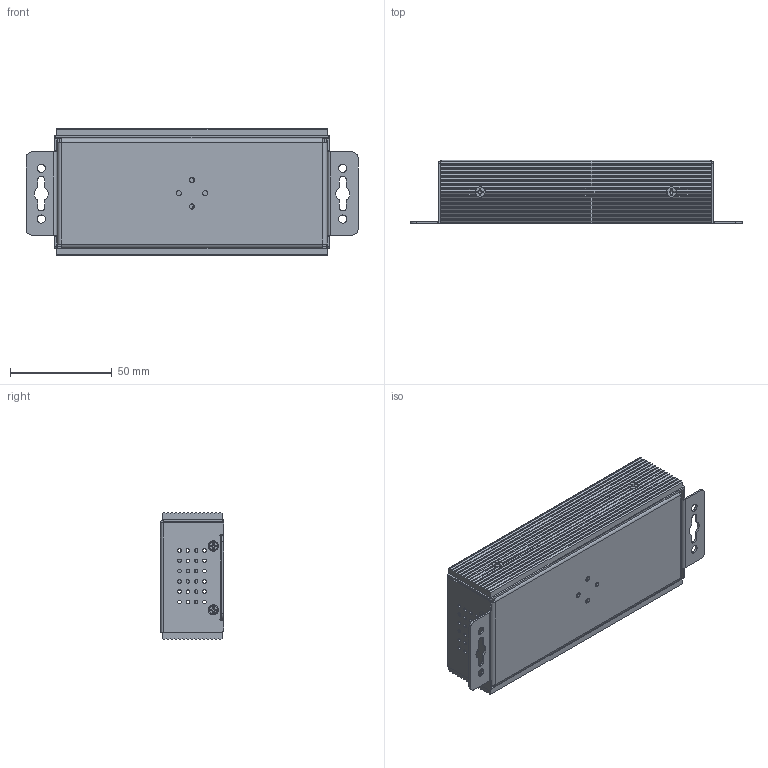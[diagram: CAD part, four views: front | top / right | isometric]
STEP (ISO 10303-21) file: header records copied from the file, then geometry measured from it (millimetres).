
FILE_DESCRIPTION(/* description */ (''),/* implementation_level */ '2;1');
FILE_NAME(/* name */ 'Assembled G17 v10.step',/* time_stamp */ '2023-12-04T15:06:41-05:00',/* author */ (''),/* organization */ (''),/* preprocessor_version */ 'ST-DEVELOPER v20',/* originating_system */ 'Autodesk Translation Framework v12.14.0.127',/* authorisation */ '');
FILE_SCHEMA (('AUTOMOTIVE_DESIGN { 1 0 10303 214 3 1 1 }'));
Length unit declared in the file: millimetre
Products named in the file (12): Assembled G17; CG-G17PHHT; Untitled; Heatsink-HHT; M3x0.5.5 China 120ang METRIC 18-8 SS FLAT HEAD PHIL MACHINE SCREW v2; M3x0.5.5 China 120ang METRIC 18-8 SS FLAT HEAD PHIL MACHINE SCREW v2 
v1(Mirror); G17 Board; Component1; USB3A_180_3; USB3_BF_180_2; Phoenix 2 Pin; LED
Assembly tree (24 placements, depth 3):
  Assembled G17
    CG-G17PHHT
    Untitled
    Heatsink-HHT  x2
    M3x0.5.5 China 120ang METRIC 18-8 SS FLAT HEAD PHIL MACHINE SCREW v2  x6
    M3x0.5.5 China 120ang METRIC 18-8 SS FLAT HEAD PHIL MACHINE SCREW v2 
v1(Mirror)  x2
    G17 Board
      Component1
      USB3A_180_3  x7
      USB3_BF_180_2
      Phoenix 2 Pin
      LED
Bounding box: 163 x 31.01 x 62.08 mm (x, y, z)
Volume: 67234.6 mm3; surface area: 103340.7 mm2
Topology: 27 solids, 27 shells, 2042 faces, 5558 edges, 3624 vertices
Faces by surface type: plane 1403, cylinder 406, cone 102, bspline 85, torus 44, sphere 2
Full cylindrical faces by diameter (mm): 0.5 x5, 1.75 x48, 2.1 x2, 2.15 x14, 2.35 x8, 2.4 x4, 2.529 x4, 3 x41, 3.45 x4, 4 x8, 5.25 x4
Entity records: 32626 total; most frequent: CARTESIAN_POINT 9182, ORIENTED_EDGE 4796, DIRECTION 4647, EDGE_CURVE 2398, LINE 1621, VECTOR 1621, VERTEX_POINT 1564, AXIS2_PLACEMENT_3D 1513
